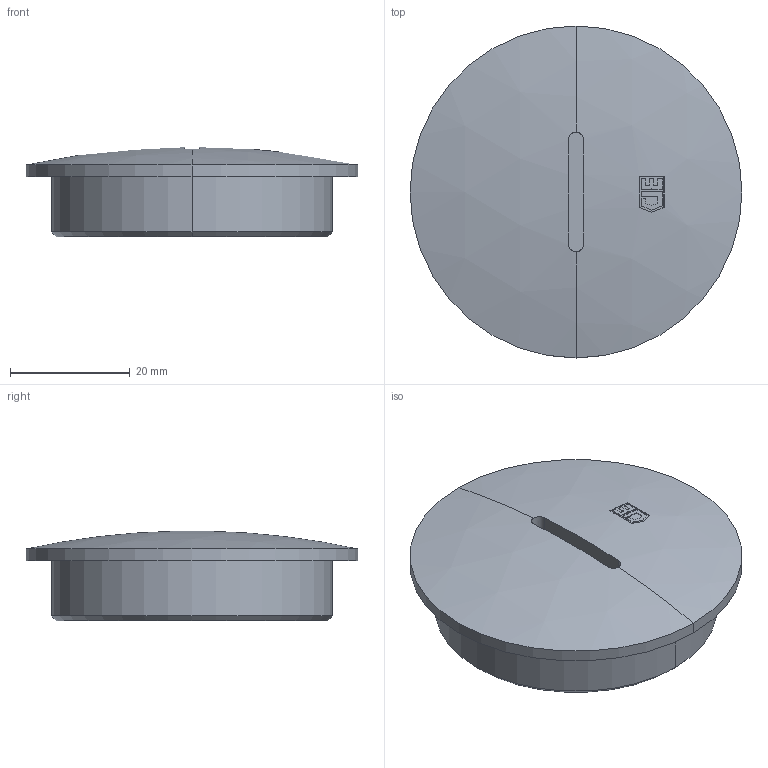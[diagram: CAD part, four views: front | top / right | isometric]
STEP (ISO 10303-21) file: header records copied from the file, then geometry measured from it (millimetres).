
FILE_DESCRIPTION (( 'STEP AP203' ), '1' );
FILE_NAME ('1036 PG.STEP', '2005-11-22T08:07:40', ( ' ' ), ( '' ), 'SwSTEP 2.0', 'SolidWorks 2005278', '' );
FILE_SCHEMA (( 'CONFIG_CONTROL_DESIGN' ));
Length unit declared in the file: millimetre
Products named in the file (1): 1036 PG
Bounding box: 55.5 x 55.5 x 14.96 mm (x, y, z)
Volume: 12760.5 mm3; surface area: 8021.7 mm2
Topology: 1 solids, 1 shells, 55 faces, 140 edges, 92 vertices
Faces by surface type: plane 40, cylinder 8, sphere 5, cone 2
Entity records: 1819 total; most frequent: CARTESIAN_POINT 346, DIRECTION 324, ORIENTED_EDGE 280, EDGE_CURVE 140, AXIS2_PLACEMENT_3D 138, VERTEX_POINT 92, CIRCLE 82, EDGE_LOOP 60
